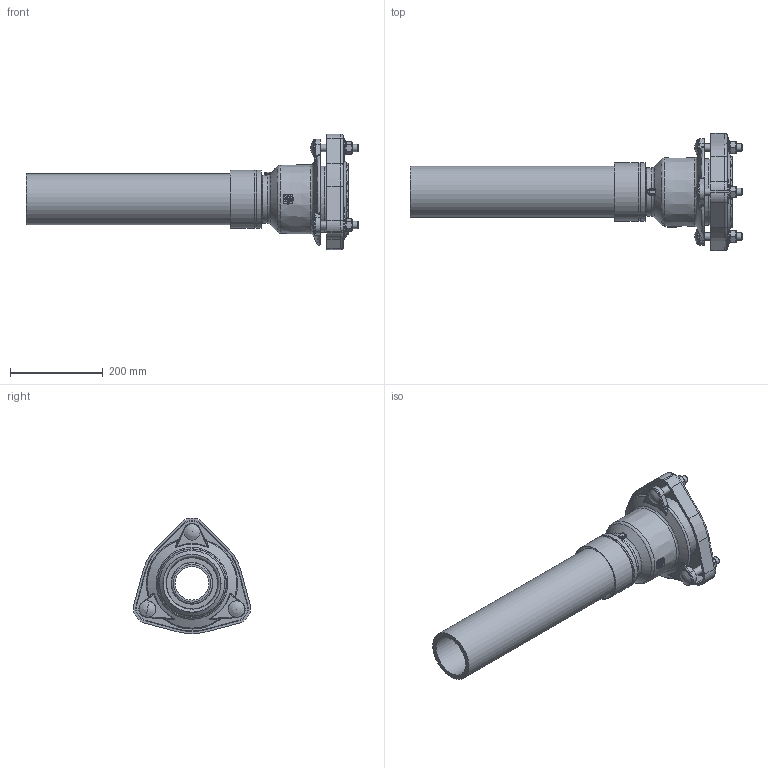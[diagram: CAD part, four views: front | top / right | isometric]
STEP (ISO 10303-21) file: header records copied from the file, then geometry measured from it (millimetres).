
FILE_DESCRIPTION((''),'2;1');
FILE_NAME('P:\Fastrack\54361_VIKING JOHNSON 3D\ULTRAGRIP\Component Parts\Components Built up\Pecatadaptor\100-110MM-UltraGrip-Pecat-Adaptor.stp','2012-05-09T09:31:50',('dcole'),(''),'Autodesk Inventor 2008','Autodesk Inventor 2008','');
FILE_SCHEMA(('AUTOMOTIVE_DESIGN { 1 0 10303 214 1 1 1 1 }'));
Length unit declared in the file: millimetre
Products named in the file (1): 100-110MM-UltraGrip-Pecat-Adaptor
Bounding box: 714.06 x 252.11 x 248.25 mm (x, y, z)
Surface area: 709871.3 mm2 (no closed solid volume)
Topology: 0 solids, 1 shells, 556 faces, 1390 edges, 865 vertices
Faces by surface type: cylinder 182, plane 169, bspline 102, cone 62, torus 41
Full cylindrical faces by diameter (mm): 13 x1, 15.7 x6, 16 x3, 30 x3, 35.2 x3, 72 x1, 87.25 x1, 90 x1, 110 x2, 112 x2, 125 x3, 132.7 x1, 133.7 x1, 134.7 x1, 141.7 x1, 142.7 x1
Entity records: 27486 total; most frequent: CARTESIAN_POINT 14640, ORIENTED_EDGE 2536, DIRECTION 2463, EDGE_CURVE 1268, AXIS2_PLACEMENT_3D 1000, VERTEX_POINT 823, EDGE_LOOP 669, STYLED_ITEM 555
